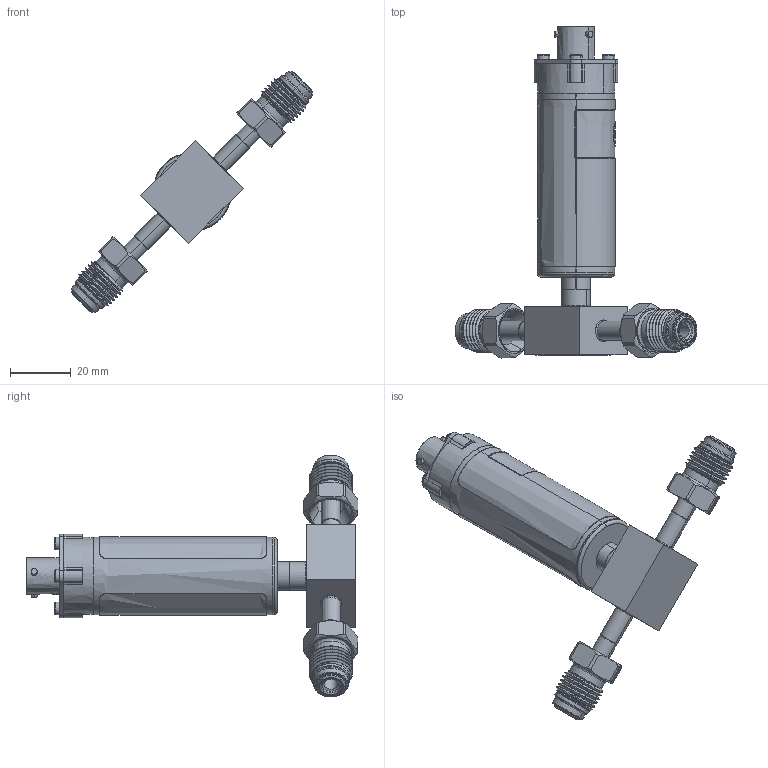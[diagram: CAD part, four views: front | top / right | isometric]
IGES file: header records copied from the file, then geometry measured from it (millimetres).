
Start section: SolidWorks IGES file using analytic representation for surfaces
Global section: file name: R:\Brooks Instrument\25-0024 SSII CAD File Generation\Client Files\SSII CAD Models for Website\CAD for Brooks Website\Example\GSF\GSF-XXXXXX-B-XXX-SM\IGES\GSF-XXXXXX-B-XXX-SM.IGS; native system: SolidWorks 2023; preprocessor: SolidWorks 2023; author: dgoddard; date: 250618.134721; units: inch
Bounding box: 79.39 x 109.08 x 79.39 mm (x, y, z)
Surface area: 25609.7 mm2 (no closed solid volume)
Topology: 0 solids, 0 shells, 564 faces, 7715 edges, 7715 vertices
Faces by surface type: bspline 294, revolution 270
